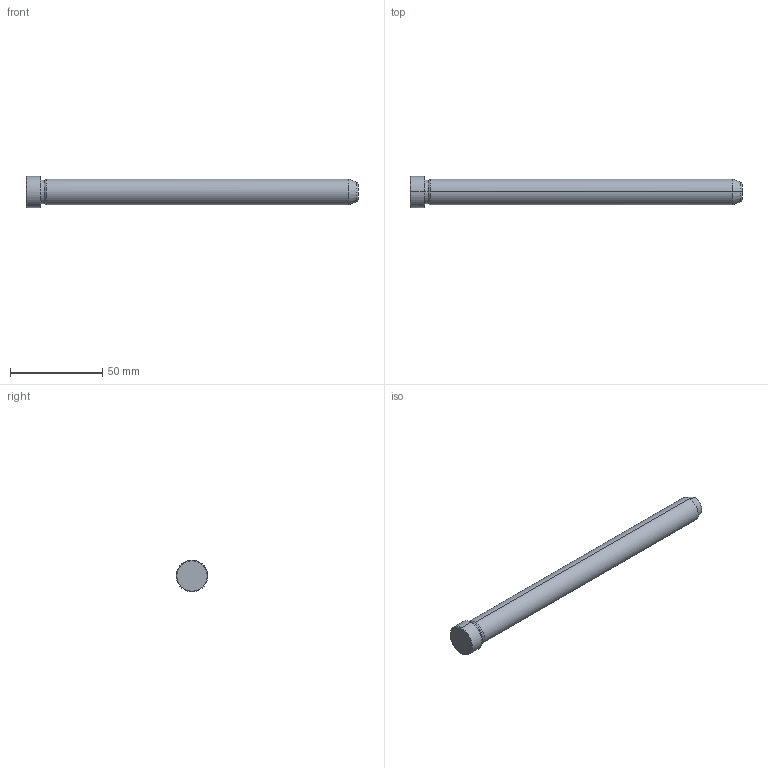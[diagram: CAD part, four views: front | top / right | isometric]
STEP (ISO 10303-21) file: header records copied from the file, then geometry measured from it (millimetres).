
FILE_DESCRIPTION(('CATIA V5 STEP Exchange'),'2;1');
FILE_NAME('C:\Users\Utente\Desktop\IO LAVORO\3D X SITO CF\X SITO\PLASTICA\549\549-14X180.stp','2021-12-11T09:29:11+00:00',('none'),('none'),'CATIA Version 5 Release 20 GA (IN-10)','CATIA V5 STEP AP203','none');
FILE_SCHEMA(('CONFIG_CONTROL_DESIGN'));
Length unit declared in the file: millimetre
Products named in the file (1): 549-14X180
Bounding box: 180 x 17 x 17 mm (x, y, z)
Volume: 28033.5 mm3; surface area: 8348.1 mm2
Topology: 1 solids, 1 shells, 19 faces, 56 edges, 40 vertices
Faces by surface type: cone 8, cylinder 6, plane 3, torus 2
Entity records: 736 total; most frequent: CARTESIAN_POINT 192, ORIENTED_EDGE 112, DIRECTION 86, EDGE_CURVE 56, AXIS2_PLACEMENT_3D 54, VERTEX_POINT 40, CIRCLE 34, EDGE_LOOP 20
